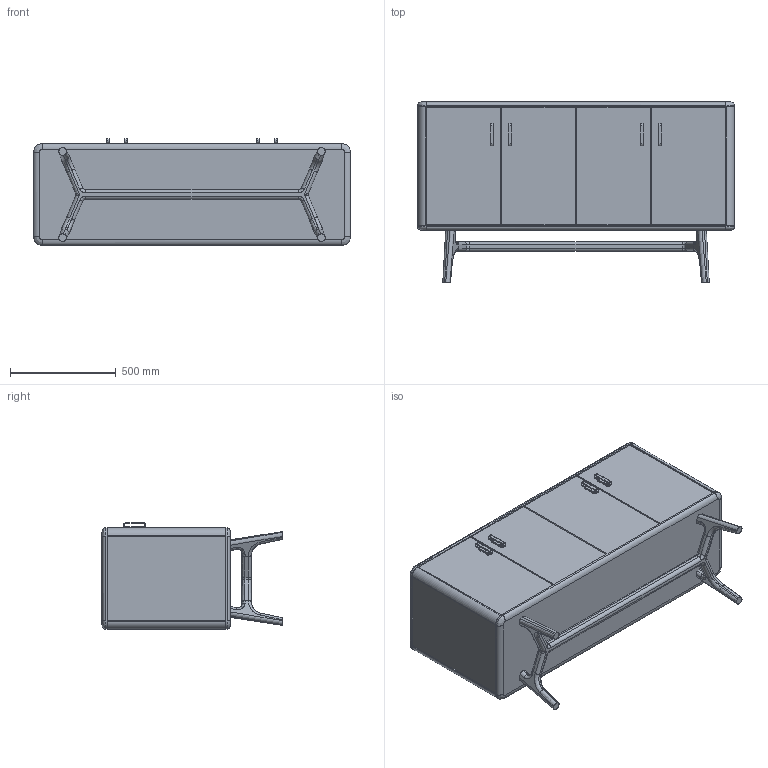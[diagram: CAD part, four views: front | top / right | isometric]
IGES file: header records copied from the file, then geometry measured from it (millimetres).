
Start section: SolidWorks IGES file using analytic representation for surfaces
Global section: file name: C:\Users\Ruben.BDLE\Box\Neri & Hu\785_786 Solo Wood Cabinets and Side Table\sales related\3D IGES\785LDD_Solo_ Wood Cabinet_va_prmt.IGS; native system: SolidWorks 2016; preprocessor: SolidWorks 2016; author: Ruben; date: 200415.102619; units: millimetre
Bounding box: 1500 x 855 x 504.26 mm (x, y, z)
Surface area: 13984961.2 mm2 (no closed solid volume)
Topology: 0 solids, 0 shells, 1011 faces, 10614 edges, 10590 vertices
Faces by surface type: bspline 636, revolution 375
